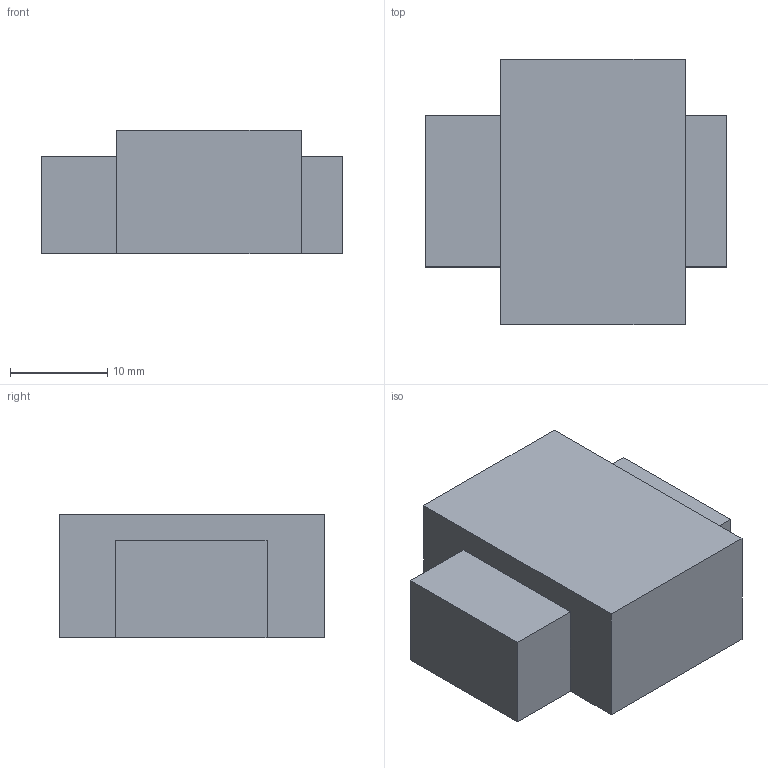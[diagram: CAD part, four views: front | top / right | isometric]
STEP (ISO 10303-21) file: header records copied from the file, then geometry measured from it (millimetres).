
FILE_DESCRIPTION(('FreeCAD Model'),'2;1');
FILE_NAME('Open CASCADE Shape Model','2024-08-21T19:10:26',('Author'),( ''),'Open CASCADE STEP processor 7.6','FreeCAD','Unknown');
FILE_SCHEMA(('AUTOMOTIVE_DESIGN { 1 0 10303 214 1 1 1 1 }'));
Length unit declared in the file: millimetre
Products named in the file (1): P26R2-0322-18R0
Bounding box: 31 x 27.3 x 12.7 mm (x, y, z)
Volume: 8459.5 mm3; surface area: 2827.8 mm2
Topology: 1 solids, 1 shells, 18 faces, 40 edges, 24 vertices
Faces by surface type: plane 18
Entity records: 1021 total; most frequent: CARTESIAN_POINT 163, DIRECTION 158, LINE 120, VECTOR 120, ORIENTED_EDGE 80, PCURVE 80, DEFINITIONAL_REPRESENTATION 80, EDGE_CURVE 40
